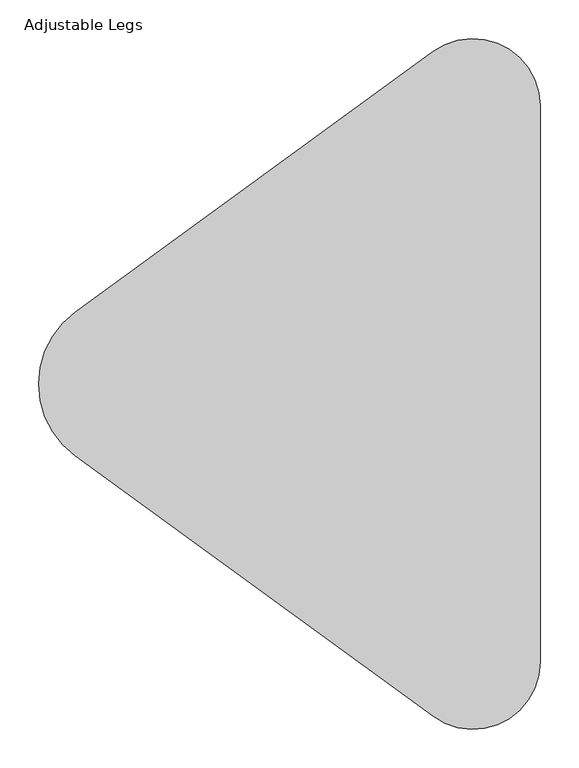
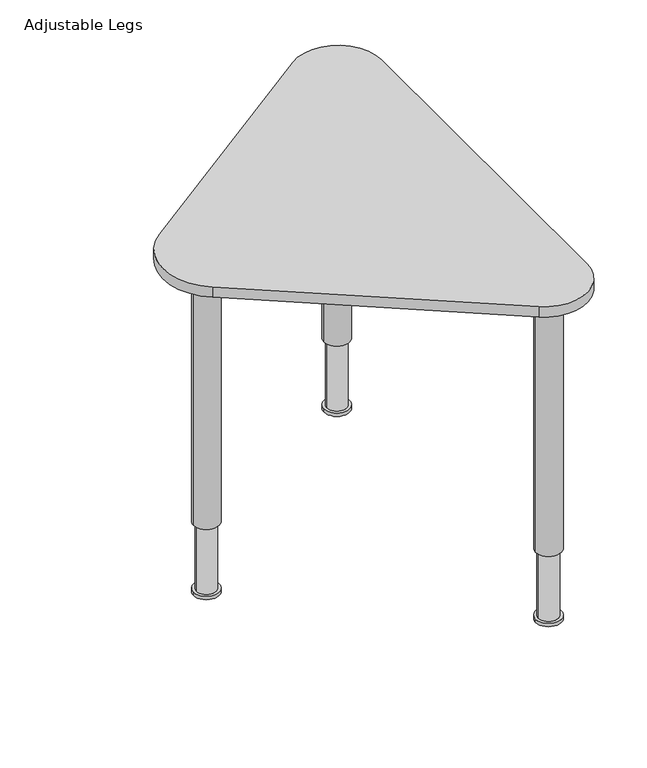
"""IFC4 building model written with IfcOpenShell, lengths in millimetres: furniture geometry, Pinta Triangle : Adjustable Legs."""

import ifcopenshell
import ifcopenshell.guid

model = None  # the IFC model being written
_history = None  # IfcOwnerHistory: only IFC2X3 demands one
_inside = {}  # id of a spatial element -> (the spatial element, [elements in it])
_under = {}  # id of a project, library or spatial element -> (it, [spatial elements below it])
_declared = {}  # id of a project -> (the project, [libraries it declares])
_typed = {}  # id of a type object -> (the type object, [elements of that type])
_made_of = {}  # id of a material, layer set ... -> (it, [elements and type objects made of it])


def new_model(schema):
    """Start an empty IFC model of exactly this schema.

    Asked for "IFC4X3", IfcOpenShell would pick the latest addendum, in which some entities
    have other attributes; the version numbers below select the first issue.
    IFC2X3 requires an IfcOwnerHistory on every rooted entity: one is made here for all.
    """
    global model, _history
    if schema == "IFC4X3":
        model = ifcopenshell.file(schema_version=(4, 3, 0, 0))
    else:
        model = ifcopenshell.file(schema=schema)
    _inside.clear()
    _under.clear()
    _declared.clear()
    _typed.clear()
    _made_of.clear()
    _history = None
    if model.schema == "IFC2X3":
        org = make("IfcOrganization", Name="unknown")
        user = make(
            "IfcPersonAndOrganization",
            ThePerson=make("IfcPerson", FamilyName="unknown"),
            TheOrganization=org,
        )
        app = make(
            "IfcApplication",
            ApplicationDeveloper=org,
            Version="unknown",
            ApplicationFullName="unknown",
            ApplicationIdentifier="unknown",
        )
        _history = make(
            "IfcOwnerHistory",
            OwningUser=user,
            OwningApplication=app,
            ChangeAction="ADDED",
            CreationDate=0,
        )
    return model


def make(cls, **values):
    """One entity of the class cls with the attributes given. An attribute that is None is left unset."""
    return model.create_entity(
        cls, **{name: value for name, value in values.items() if value is not None}
    )


def rooted(cls, **values):
    """An entity with a GlobalId (a new one), such as an element, a storey or a relation."""
    return make(cls, GlobalId=ifcopenshell.guid.new(), OwnerHistory=_history, **values)


def si_unit(unit_type, name, prefix=None):
    """IfcSIUnit, for example si_unit("LENGTHUNIT", "METRE", prefix="MILLI")."""
    return make("IfcSIUnit", UnitType=unit_type, Prefix=prefix, Name=name)


def assignment(units):
    """IfcUnitAssignment: the units of a project."""
    return None if units is None else make("IfcUnitAssignment", Units=units)


def point(xyz):
    """IfcCartesianPoint."""
    return None if xyz is None else make("IfcCartesianPoint", Coordinates=xyz)


def direction(xyz):
    """IfcDirection."""
    return None if xyz is None else make("IfcDirection", DirectionRatios=xyz)


def frame(location, z_axis=None, x_axis=None):
    """IfcAxis2Placement3D, a coordinate frame: its origin and axes. An axis left out is left unset."""
    return make(
        "IfcAxis2Placement3D",
        Location=point(location),
        Axis=direction(z_axis),
        RefDirection=direction(x_axis),
    )


def frame_2d(location, x_axis=None):
    """IfcAxis2Placement2D, a coordinate frame in the plane: its origin and x axis."""
    return make(
        "IfcAxis2Placement2D", Location=point(location), RefDirection=direction(x_axis)
    )


def origin():
    """The frame at (0, 0, 0) with its axes left unset."""
    return frame((0.0, 0.0, 0.0))


def place(relative_to, where):
    """IfcLocalPlacement: puts the frame where relative to a parent placement (None: the world)."""
    return make(
        "IfcLocalPlacement", PlacementRelTo=relative_to, RelativePlacement=where
    )


def context(
    kind, dimensions, precision=None, world=None, true_north=None, identifier=None
):
    """IfcGeometricRepresentationContext, for example the 3D "Model" context."""
    return make(
        "IfcGeometricRepresentationContext",
        ContextIdentifier=identifier,
        ContextType=kind,
        CoordinateSpaceDimension=dimensions,
        Precision=precision,
        WorldCoordinateSystem=world,
        TrueNorth=true_north,
    )


def project(units=None, contexts=None):
    """IfcProject with its units and contexts."""
    return rooted(
        "IfcProject",
        Name="project",
        RepresentationContexts=contexts,
        UnitsInContext=assignment(units),
    )


def spatial(cls, under=None, at=None, **own):
    """A site, building, storey or space (cls), placed at a placement, below another one or the project."""
    s = rooted(cls, ObjectPlacement=at, **own)
    if under is not None:
        _under.setdefault(under.id(), (under, []))[1].append(s)
    return s


def polyline(points):
    """IfcPolyline through the points."""
    return make("IfcPolyline", Points=[point(p) for p in points])


def circle_curve(where, radius):
    """IfcCircle in the frame where."""
    return make("IfcCircle", Position=where, Radius=radius)


def trimmed(basis, trim1, trim2, sense, master):
    """IfcTrimmedCurve: the piece of a basis curve between two trims."""
    return make(
        "IfcTrimmedCurve",
        BasisCurve=basis,
        Trim1=trim1,
        Trim2=trim2,
        SenseAgreement=sense,
        MasterRepresentation=master,
    )


def segment(curve, same_sense, transition):
    """IfcCompositeCurveSegment."""
    return make(
        "IfcCompositeCurveSegment",
        Transition=transition,
        SameSense=same_sense,
        ParentCurve=curve,
    )


def composite_curve(segments, self_intersect=None):
    """IfcCompositeCurve: segments joined end to end."""
    return make("IfcCompositeCurve", Segments=segments, SelfIntersect=self_intersect)


def outline(outer, holes=None, kind="AREA"):
    """IfcArbitraryClosedProfileDef: a profile drawn as a closed curve; with holes, ...WithVoids."""
    if holes is None:
        return make("IfcArbitraryClosedProfileDef", ProfileType=kind, OuterCurve=outer)
    return make(
        "IfcArbitraryProfileDefWithVoids",
        ProfileType=kind,
        OuterCurve=outer,
        InnerCurves=holes,
    )


def extrude(swept, where, along, depth):
    """IfcExtrudedAreaSolid: the profile swept, set in the frame where, extruded along a direction by depth."""
    return make(
        "IfcExtrudedAreaSolid",
        SweptArea=swept,
        Position=where,
        ExtrudedDirection=direction(along),
        Depth=depth,
    )


def shape(context_of_items, identifier, shape_type, items):
    """IfcShapeRepresentation: the items that make up one representation, for example the "Body"."""
    return make(
        "IfcShapeRepresentation",
        ContextOfItems=context_of_items,
        RepresentationIdentifier=identifier,
        RepresentationType=shape_type,
        Items=items,
    )


def source(mapping_origin, context_of_items, identifier, shape_type, items):
    """IfcRepresentationMap: a shape defined once, which mapped items show again and again."""
    return make(
        "IfcRepresentationMap",
        MappingOrigin=mapping_origin,
        MappedRepresentation=shape(context_of_items, identifier, shape_type, items),
    )


def transform(
    local_origin,
    x_axis=None,
    y_axis=None,
    z_axis=None,
    scale=None,
    scale2=None,
    scale3=None,
    uniform=True,
):
    """IfcCartesianTransformationOperator3D, or its non-uniform kind. x_axis, y_axis, z_axis: its Axis1, 2, 3."""
    if uniform:
        return make(
            "IfcCartesianTransformationOperator3D",
            Axis1=direction(x_axis),
            Axis2=direction(y_axis),
            LocalOrigin=point(local_origin),
            Scale=scale,
            Axis3=direction(z_axis),
        )
    return make(
        "IfcCartesianTransformationOperator3DnonUniform",
        Axis1=direction(x_axis),
        Axis2=direction(y_axis),
        LocalOrigin=point(local_origin),
        Scale=scale,
        Axis3=direction(z_axis),
        Scale2=scale2,
        Scale3=scale3,
    )


def mapped(mapping_source, mapping_target):
    """IfcMappedItem: shows the shape of a source again, moved by a transform."""
    return make(
        "IfcMappedItem", MappingSource=mapping_source, MappingTarget=mapping_target
    )


def made_of(thing, what):
    """Note that an element or type object is made of a material, layer set ...; save() writes the relation."""
    if what is not None:
        _made_of.setdefault(what.id(), (what, []))[1].append(thing)
    return thing


def element(
    cls,
    number,
    at=None,
    inside=None,
    cuts=None,
    type_object=None,
    material=None,
    context=None,
    identifier="Body",
    shape_type=None,
    held_by="IfcProductDefinitionShape",
    body=None,
    shapes=None,
    **own,
):
    """One element of the class cls, such as IfcWall. Its Tag is "e" and its number.

    at: its placement. inside: the storey or other place that contains it. cuts: it is an
    opening in that element (IfcRelVoidsElement). A single representation is given by context,
    identifier, shape_type and body (its items); several are given by shapes. held_by: the class
    of the entity that holds the representations. save() writes the other relations.
    """
    e = rooted(cls, Tag="e%d" % number, ObjectPlacement=at, **own)
    if body is not None:
        shapes = [shape(context, identifier, shape_type, body)]
    if shapes is not None:
        e.Representation = make(held_by, Representations=shapes)
    if inside is not None:
        _inside.setdefault(inside.id(), (inside, []))[1].append(e)
    if cuts is not None:
        rooted(
            "IfcRelVoidsElement", RelatingBuildingElement=cuts, RelatedOpeningElement=e
        )
    if type_object is not None:
        _typed.setdefault(type_object.id(), (type_object, []))[1].append(e)
    return made_of(e, material)


def aggregate(whole, parts):
    """IfcRelAggregates: a whole, such as a stair, and the parts it consists of."""
    return rooted("IfcRelAggregates", RelatingObject=whole, RelatedObjects=parts)


def save(model, path):
    """Write the relations noted so far, then the file.

    IfcRelAggregates (storeys below a building ...), IfcRelContainedInSpatialStructure (elements
    in a storey), IfcRelDefinesByType, IfcRelAssociatesMaterial and IfcRelDeclares: one each for
    every whole, place, type object, material and project.
    """
    for whole, parts in _under.values():
        aggregate(whole, parts)
    for where, things in _inside.values():
        rooted(
            "IfcRelContainedInSpatialStructure",
            RelatedElements=things,
            RelatingStructure=where,
        )
    for kind, things in _typed.values():
        rooted("IfcRelDefinesByType", RelatedObjects=things, RelatingType=kind)
    for what, things in _made_of.values():
        rooted("IfcRelAssociatesMaterial", RelatedObjects=things, RelatingMaterial=what)
    for by, libraries in _declared.values():
        rooted("IfcRelDeclares", RelatingContext=by, RelatedDefinitions=libraries)
    model.write(path)


def plane_surface(at):
    """IfcPlane: the flat surface through the origin of the frame at, square to its z axis."""
    return make("IfcPlane", Position=at)


def cylinder_surface(at, radius):
    """IfcCylindricalSurface: all points at the distance radius from the z axis of the frame at."""
    return make("IfcCylindricalSurface", Position=at, Radius=radius)


def advanced_brep(points, edges, surfaces, faces):
    """IfcAdvancedBrep: a solid bounded by faces that lie on surfaces and meet in shared edges.

    An edge is (start, end): straight between two places in points (the first is 0);
    or (start, end, curve); or (start, end, curve, False) where it runs against its curve.
    A face is (place in surfaces, loops), or (place, loops, False) where it looks against
    its surface's normal. A loop lists edges by number (the first is 1), with a minus sign
    where the edge is run from its end to its start. The first loop is the outer one.
    """
    corners = [point(p) for p in points]
    vertices = [make("IfcVertexPoint", VertexGeometry=c) for c in corners]
    made = []
    for start, end, *more in edges:
        made.append(
            make(
                "IfcEdgeCurve",
                EdgeStart=vertices[start],
                EdgeEnd=vertices[end],
                EdgeGeometry=more[0] if more else make("IfcPolyline", Points=[corners[start], corners[end]]),
                SameSense=more[1] if len(more) > 1 else True,
            )
        )
    hull = []
    for where, loops, *sense in faces:
        bounds = []
        for j, loop in enumerate(loops):
            ring = [make("IfcOrientedEdge", EdgeElement=made[abs(k) - 1], Orientation=k > 0) for k in loop]
            bounds.append(
                make(
                    "IfcFaceOuterBound" if j == 0 else "IfcFaceBound",
                    Bound=make("IfcEdgeLoop", EdgeList=ring),
                    Orientation=True,
                )
            )
        hull.append(make("IfcAdvancedFace", Bounds=bounds, FaceSurface=surfaces[where], SameSense=sense[0] if sense else True))
    return make("IfcAdvancedBrep", Outer=make("IfcClosedShell", CfsFaces=hull))


def adjustable_legs_d527a67b(model_context):
    return source(origin(), model_context, "Body", "SolidModel", [
        advanced_brep(
        [(-26.0001485, -369.94205, 698.0), (25.9998515, -369.94205, 698.0), (-26.0001485, -369.94205, 0.0), (25.9998515, -369.94205, 0.0), (-26.0001485, -369.94205, 150.0), (25.9998515, -369.94205, 150.0), (25.9998515, -369.94205, 6.8222009), (-26.0001485, -369.94205, 6.8222009), (19.9998515, -369.94205, 150.0), (-20.0001485, -369.94205, 150.0), (19.9998515, -369.94205, 6.8222009), (-20.0001485, -369.94205, 6.8222009)],
        [
            (0, 1, circle_curve(frame((-0.0001485, -369.94205, 698.0), z_axis=(0.0, 0.0, 1.0), x_axis=(1.0, 0.0, 0.0)), 26.0)),
            (1, 0, circle_curve(frame((-0.0001485, -369.94205, 698.0), z_axis=(0.0, 0.0, 1.0), x_axis=(1.0, 0.0, 0.0)), 26.0)),
            (2, 3, circle_curve(frame((-0.0001485, -369.94205, 0.0), z_axis=(0.0, 0.0, -1.0), x_axis=(1.0, 0.0, 0.0)), 26.0)),
            (3, 2, circle_curve(frame((-0.0001485, -369.94205, 0.0), z_axis=(0.0, 0.0, -1.0), x_axis=(1.0, 0.0, 0.0)), 26.0)),
            (0, 4),
            (4, 5, circle_curve(frame((-0.0001485, -369.94205, 150.0), z_axis=(0.0, 0.0, 1.0), x_axis=(1.0, 0.0, 0.0)), 26.0)),
            (5, 1),
            (3, 6),
            (6, 7, circle_curve(frame((-0.0001485, -369.94205, 6.8222009), z_axis=(0.0, 0.0, -1.0), x_axis=(1.0, 0.0, 0.0)), 26.0)),
            (7, 2),
            (5, 4, circle_curve(frame((-0.0001485, -369.94205, 150.0), z_axis=(0.0, 0.0, 1.0), x_axis=(1.0, 0.0, 0.0)), 26.0)),
            (7, 6, circle_curve(frame((-0.0001485, -369.94205, 6.8222009), z_axis=(0.0, 0.0, -1.0), x_axis=(1.0, 0.0, 0.0)), 26.0)),
            (8, 9, circle_curve(frame((-0.0001485, -369.94205, 150.0), z_axis=(0.0, 0.0, 1.0), x_axis=(-1.0, 0.0, 0.0)), 20.0)),
            (9, 8, circle_curve(frame((-0.0001485, -369.94205, 150.0), z_axis=(0.0, 0.0, 1.0), x_axis=(-1.0, 0.0, 0.0)), 20.0)),
            (10, 11, circle_curve(frame((-0.0001485, -369.94205, 6.8222009), z_axis=(0.0, 0.0, -1.0), x_axis=(-1.0, 0.0, 0.0)), 20.0)),
            (11, 10, circle_curve(frame((-0.0001485, -369.94205, 6.8222009), z_axis=(0.0, 0.0, -1.0), x_axis=(-1.0, 0.0, 0.0)), 20.0)),
            (9, 11),
            (10, 8),
        ],
        [
            plane_surface(frame((25.9998515, -369.94205, 698.0), z_axis=(0.0, 0.0, 1.0), x_axis=(0.0, 1.0, 0.0))),
            plane_surface(frame((25.9998515, -369.94205, 0.0), z_axis=(0.0, 0.0, -1.0), x_axis=(0.0, -1.0, 0.0))),
            cylinder_surface(frame((-0.0001485, -369.94205, 0.0), z_axis=(0.0, 0.0, 1.0), x_axis=(1.0, 0.0, 0.0)), 26.0),
            plane_surface(frame((-20.0001485, -369.94205, 150.0), z_axis=(0.0, 0.0, -1.0), x_axis=(0.0, 1.0, 0.0))),
            plane_surface(frame((-20.0001485, -369.94205, 6.8222009), z_axis=(0.0, 0.0, 1.0), x_axis=(0.0, -1.0, 0.0))),
            cylinder_surface(frame((-0.0001485, -369.94205, 6.8222009), z_axis=(0.0, 0.0, -1.0), x_axis=(-1.0, 0.0, 0.0)), 20.0),
        ],
        [
            (0, [[1, 2]]),
            (1, [[3, 4]]),
            (2, [[-1, 5, 6, 7]]),
            (2, [[-4, 8, 9, 10]]),
            (2, [[-2, -7, 11, -5]]),
            (2, [[-3, -10, 12, -8]]),
            (3, [[-6, -11], [13, 14]]),
            (4, [[-9, -12], [15, 16]]),
            (5, [[-14, 17, -15, 18]]),
            (5, [[-13, -18, -16, -17]]),
        ],
    ),
        advanced_brep(
        [(-26.0001485, 370.05795, 698.0), (25.9998515, 370.05795, 698.0), (-26.0001485, 370.05795, 0.0), (25.9998515, 370.05795, 0.0), (-26.0001485, 370.05795, 150.0), (25.9998515, 370.05795, 150.0), (25.9998515, 370.05795, 6.8222009), (-26.0001485, 370.05795, 6.8222009), (19.9998515, 370.05795, 150.0), (-20.0001485, 370.05795, 150.0), (19.9998515, 370.05795, 6.8222009), (-20.0001485, 370.05795, 6.8222009)],
        [
            (0, 1, circle_curve(frame((-0.0001485, 370.05795, 698.0), z_axis=(0.0, 0.0, 1.0), x_axis=(1.0, 0.0, 0.0)), 26.0)),
            (1, 0, circle_curve(frame((-0.0001485, 370.05795, 698.0), z_axis=(0.0, 0.0, 1.0), x_axis=(1.0, 0.0, 0.0)), 26.0)),
            (2, 3, circle_curve(frame((-0.0001485, 370.05795, 0.0), z_axis=(0.0, 0.0, -1.0), x_axis=(1.0, 0.0, 0.0)), 26.0)),
            (3, 2, circle_curve(frame((-0.0001485, 370.05795, 0.0), z_axis=(0.0, 0.0, -1.0), x_axis=(1.0, 0.0, 0.0)), 26.0)),
            (0, 4),
            (4, 5, circle_curve(frame((-0.0001485, 370.05795, 150.0), z_axis=(0.0, 0.0, 1.0), x_axis=(1.0, 0.0, 0.0)), 26.0)),
            (5, 1),
            (3, 6),
            (6, 7, circle_curve(frame((-0.0001485, 370.05795, 6.8222009), z_axis=(0.0, 0.0, -1.0), x_axis=(1.0, 0.0, 0.0)), 26.0)),
            (7, 2),
            (5, 4, circle_curve(frame((-0.0001485, 370.05795, 150.0), z_axis=(0.0, 0.0, 1.0), x_axis=(1.0, 0.0, 0.0)), 26.0)),
            (7, 6, circle_curve(frame((-0.0001485, 370.05795, 6.8222009), z_axis=(0.0, 0.0, -1.0), x_axis=(1.0, 0.0, 0.0)), 26.0)),
            (8, 9, circle_curve(frame((-0.0001485, 370.05795, 150.0), z_axis=(0.0, 0.0, 1.0), x_axis=(-1.0, 0.0, 0.0)), 20.0)),
            (9, 8, circle_curve(frame((-0.0001485, 370.05795, 150.0), z_axis=(0.0, 0.0, 1.0), x_axis=(-1.0, 0.0, 0.0)), 20.0)),
            (10, 11, circle_curve(frame((-0.0001485, 370.05795, 6.8222009), z_axis=(0.0, 0.0, -1.0), x_axis=(-1.0, 0.0, 0.0)), 20.0)),
            (11, 10, circle_curve(frame((-0.0001485, 370.05795, 6.8222009), z_axis=(0.0, 0.0, -1.0), x_axis=(-1.0, 0.0, 0.0)), 20.0)),
            (9, 11),
            (10, 8),
        ],
        [
            plane_surface(frame((25.9998515, 370.05795, 698.0), z_axis=(0.0, 0.0, 1.0), x_axis=(0.0, 1.0, 0.0))),
            plane_surface(frame((25.9998515, 370.05795, 0.0), z_axis=(0.0, 0.0, -1.0), x_axis=(0.0, -1.0, 0.0))),
            cylinder_surface(frame((-0.0001485, 370.05795, 0.0), z_axis=(0.0, 0.0, 1.0), x_axis=(1.0, 0.0, 0.0)), 26.0),
            plane_surface(frame((-20.0001485, 370.05795, 150.0), z_axis=(0.0, 0.0, -1.0), x_axis=(0.0, 1.0, 0.0))),
            plane_surface(frame((-20.0001485, 370.05795, 6.8222009), z_axis=(0.0, 0.0, 1.0), x_axis=(0.0, -1.0, 0.0))),
            cylinder_surface(frame((-0.0001485, 370.05795, 6.8222009), z_axis=(0.0, 0.0, -1.0), x_axis=(-1.0, 0.0, 0.0)), 20.0),
        ],
        [
            (0, [[1, 2]]),
            (1, [[3, 4]]),
            (2, [[-1, 5, 6, 7]]),
            (2, [[-4, 8, 9, 10]]),
            (2, [[-2, -7, 11, -5]]),
            (2, [[-3, -10, 12, -8]]),
            (3, [[-6, -11], [13, 14]]),
            (4, [[-9, -12], [15, 16]]),
            (5, [[-14, 17, -15, 18]]),
            (5, [[-13, -18, -16, -17]]),
        ],
    ),
        advanced_brep(
        [(-502.9345468, 0.3785984, 698.0), (-450.9345468, 0.3785984, 698.0), (-502.9345468, 0.3785984, 0.0), (-450.9345468, 0.3785984, 0.0), (-502.9345468, 0.3785984, 150.0), (-450.9345468, 0.3785984, 150.0), (-450.9345468, 0.3785984, 6.8222009), (-502.9345468, 0.3785984, 6.8222009), (-456.9345468, 0.3785984, 150.0), (-496.9345468, 0.3785984, 150.0), (-456.9345468, 0.3785984, 6.8222009), (-496.9345468, 0.3785984, 6.8222009)],
        [
            (0, 1, circle_curve(frame((-476.9345468, 0.3785984, 698.0), z_axis=(0.0, 0.0, 1.0), x_axis=(1.0, 0.0, 0.0)), 26.0)),
            (1, 0, circle_curve(frame((-476.9345468, 0.3785984, 698.0), z_axis=(0.0, 0.0, 1.0), x_axis=(1.0, 0.0, 0.0)), 26.0)),
            (2, 3, circle_curve(frame((-476.9345468, 0.3785984, 0.0), z_axis=(0.0, 0.0, -1.0), x_axis=(1.0, 0.0, 0.0)), 26.0)),
            (3, 2, circle_curve(frame((-476.9345468, 0.3785984, 0.0), z_axis=(0.0, 0.0, -1.0), x_axis=(1.0, 0.0, 0.0)), 26.0)),
            (0, 4),
            (4, 5, circle_curve(frame((-476.9345468, 0.3785984, 150.0), z_axis=(0.0, 0.0, 1.0), x_axis=(1.0, 0.0, 0.0)), 26.0)),
            (5, 1),
            (3, 6),
            (6, 7, circle_curve(frame((-476.9345468, 0.3785984, 6.8222009), z_axis=(0.0, 0.0, -1.0), x_axis=(1.0, 0.0, 0.0)), 26.0)),
            (7, 2),
            (5, 4, circle_curve(frame((-476.9345468, 0.3785984, 150.0), z_axis=(0.0, 0.0, 1.0), x_axis=(1.0, 0.0, 0.0)), 26.0)),
            (7, 6, circle_curve(frame((-476.9345468, 0.3785984, 6.8222009), z_axis=(0.0, 0.0, -1.0), x_axis=(1.0, 0.0, 0.0)), 26.0)),
            (8, 9, circle_curve(frame((-476.9345468, 0.3785984, 150.0), z_axis=(0.0, 0.0, 1.0), x_axis=(-1.0, 0.0, 0.0)), 20.0)),
            (9, 8, circle_curve(frame((-476.9345468, 0.3785984, 150.0), z_axis=(0.0, 0.0, 1.0), x_axis=(-1.0, 0.0, 0.0)), 20.0)),
            (10, 11, circle_curve(frame((-476.9345468, 0.3785984, 6.8222009), z_axis=(0.0, 0.0, -1.0), x_axis=(-1.0, 0.0, 0.0)), 20.0)),
            (11, 10, circle_curve(frame((-476.9345468, 0.3785984, 6.8222009), z_axis=(0.0, 0.0, -1.0), x_axis=(-1.0, 0.0, 0.0)), 20.0)),
            (9, 11),
            (10, 8),
        ],
        [
            plane_surface(frame((-450.9345468, 0.3785984, 698.0), z_axis=(0.0, 0.0, 1.0), x_axis=(0.0, 1.0, 0.0))),
            plane_surface(frame((-450.9345468, 0.3785984, 0.0), z_axis=(0.0, 0.0, -1.0), x_axis=(0.0, -1.0, 0.0))),
            cylinder_surface(frame((-476.9345468, 0.3785984, 0.0), z_axis=(0.0, 0.0, 1.0), x_axis=(1.0, 0.0, 0.0)), 26.0),
            plane_surface(frame((-496.9345468, 0.3785984, 150.0), z_axis=(0.0, 0.0, -1.0), x_axis=(0.0, 1.0, 0.0))),
            plane_surface(frame((-496.9345468, 0.3785984, 6.8222009), z_axis=(0.0, 0.0, 1.0), x_axis=(0.0, -1.0, 0.0))),
            cylinder_surface(frame((-476.9345468, 0.3785984, 6.8222009), z_axis=(0.0, 0.0, -1.0), x_axis=(-1.0, 0.0, 0.0)), 20.0),
        ],
        [
            (0, [[1, 2]]),
            (1, [[3, 4]]),
            (2, [[-1, 5, 6, 7]]),
            (2, [[-4, 8, 9, 10]]),
            (2, [[-2, -7, 11, -5]]),
            (2, [[-3, -10, 12, -8]]),
            (3, [[-6, -11], [13, 14]]),
            (4, [[-9, -12], [15, 16]]),
            (5, [[-14, 17, -15, 18]]),
            (5, [[-13, -18, -16, -17]]),
        ],
    ),
        extrude(outline(composite_curve([segment(polyline([(-517.7368512, 93.3576027), (-54.0140735, 430.2719219)]), True, "CONTINUOUS"), segment(trimmed(circle_curve(frame_2d((-2.8767566, 359.8874434)), 87.0), [point((-54.0140735, 430.2719219))], [point((84.1232434, 359.8874434))], False, "CARTESIAN"), True, "CONTINUOUS"), segment(polyline([(84.1232434, 359.8874434), (84.1232434, -359.2461467)]), True, "CONTINUOUS"), segment(trimmed(circle_curve(frame_2d((-2.8767566, -359.2461467)), 87.0), [point((84.1232434, -359.2461467))], [point((-54.0140735, -429.6306252))], False, "CARTESIAN"), True, "CONTINUOUS"), segment(polyline([(-54.0140735, -429.6306252), (-517.7368512, -92.716306)]), True, "CONTINUOUS"), segment(trimmed(circle_curve(frame_2d((-450.1415472, 0.3206484)), 115.0), [point((-517.7368512, -92.716306))], [point((-517.7368512, 93.3576027))], False, "CARTESIAN"), True, "CONTINUOUS")], self_intersect=False)), frame((0.0, 0.0, 698.0), z_axis=(0.0, 0.0, 1.0), x_axis=(1.0, 0.0, 0.0)), (0.0, 0.0, 1.0), 22.0),
    ])


if __name__ == "__main__":
    model = new_model("IFC4")
    model_context = context("Model", 3, world=origin())
    ifc_project = project(units=[si_unit("LENGTHUNIT", "METRE", prefix="MILLI")], contexts=[model_context])
    site = spatial("IfcSite", under=ifc_project)
    building = spatial("IfcBuilding", under=site)
    placement = place(None, origin())
    adjustable_legs_shape = adjustable_legs_d527a67b(model_context)
    element("IfcFurniture", 1, ObjectType="Pinta Triangle : Adjustable Legs", at=placement, inside=building, context=model_context, shape_type="MappedRepresentation", body=[
        mapped(adjustable_legs_shape, transform((0.0, 0.0, 0.0), x_axis=(1.0, 0.0, 0.0), y_axis=(0.0, 1.0, 0.0), z_axis=(0.0, 0.0, 1.0))),
    ])
    save(model, "model.ifc")
